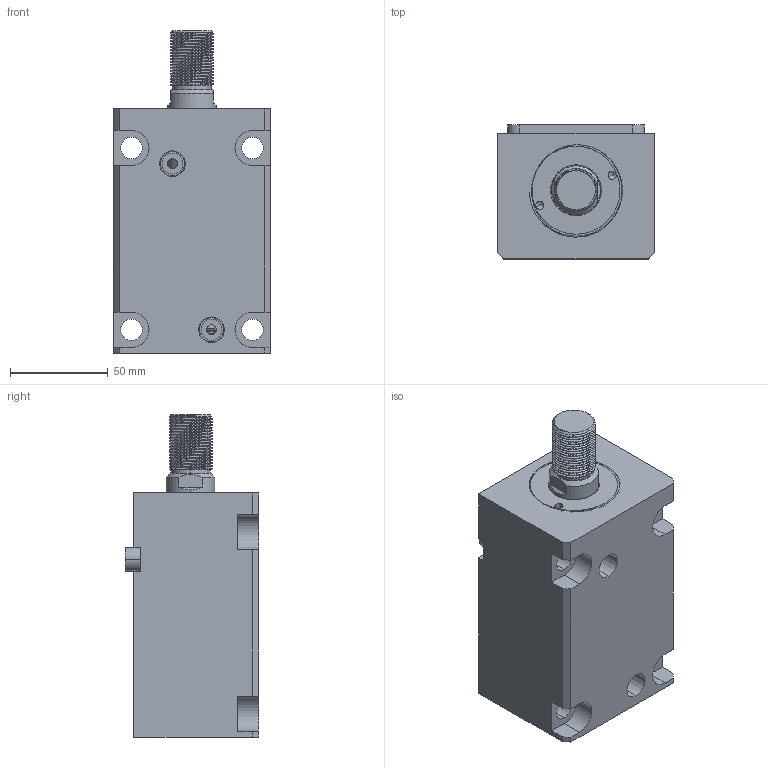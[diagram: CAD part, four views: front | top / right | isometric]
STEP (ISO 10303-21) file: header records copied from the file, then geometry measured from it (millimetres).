
FILE_DESCRIPTION (( 'STEP AP214' ), '1' );
FILE_NAME ('chtb-la40x70w_asm.STEP', '2018-06-02T07:50:59', ( 'Windows' ), ( 'Microsoft' ), 'SwSTEP 2.0', 'SolidWorks 2015', '' );
FILE_SCHEMA (( 'AUTOMOTIVE_DESIGN' ));
Length unit declared in the file: millimetre
Products named in the file (5): CHTB-SD40QG; CHTB-LA40PJ; CHTB-SD40X70WHSG; CHTB-LA40X70NBT; chtb-la40x70w_asm
Assembly tree (4 placements, depth 2):
  chtb-la40x70w_asm
    CHTB-LA40X70NBT
    CHTB-SD40X70WHSG
    CHTB-LA40PJ
    CHTB-SD40QG
Bounding box: 80 x 68.5 x 165 mm (x, y, z)
Volume: 563919.3 mm3; surface area: 101738.1 mm2
Topology: 4 solids, 5 shells, 205 faces, 559 edges, 373 vertices
Faces by surface type: cylinder 111, plane 52, bspline 16, cone 14, torus 12
Entity records: 13775 total; most frequent: CARTESIAN_POINT 8706, ORIENTED_EDGE 1106, DIRECTION 926, EDGE_CURVE 553, VERTEX_POINT 373, AXIS2_PLACEMENT_3D 363, EDGE_LOOP 234, ADVANCED_FACE 205
